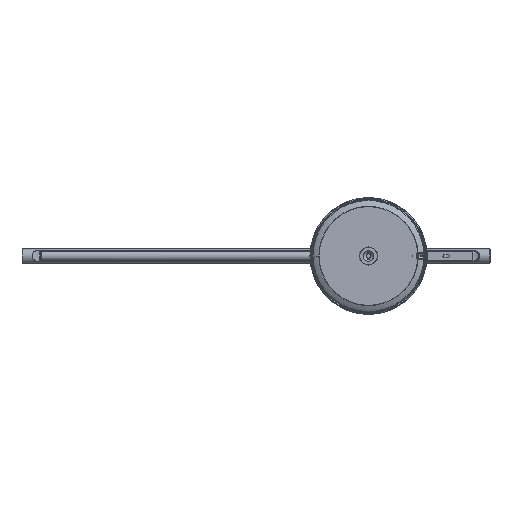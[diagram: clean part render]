
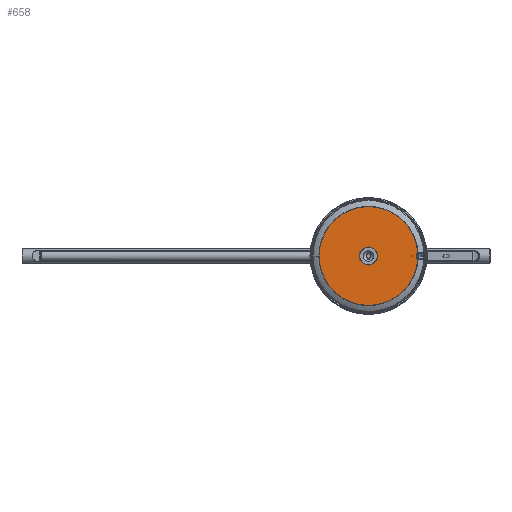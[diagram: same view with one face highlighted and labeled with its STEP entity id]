
A CAD part, front view. The second image highlights one B-rep face of the part: STEP entity #658.
In plain terms, the highlighted planar face has unit normal (0, -1, 0).
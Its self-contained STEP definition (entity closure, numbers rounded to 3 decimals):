
#105 = DIRECTION ( 'NONE',  ( -1., 0., 0. ) ) ;
#398 = VERTEX_POINT ( 'NONE', #5561 ) ;
#568 = AXIS2_PLACEMENT_3D ( 'NONE', #1895, #6085, #6145 ) ;
#658 = ADVANCED_FACE ( 'NONE', ( #8896, #8214 ), #6558, .F. ) ;
#961 = CIRCLE ( 'NONE', #2252, 3. ) ;
#968 = DIRECTION ( 'NONE',  ( 0., 1., 0. ) ) ;
#1062 = ORIENTED_EDGE ( 'NONE', *, *, #1435, .T. ) ;
#1435 = EDGE_CURVE ( 'NONE', #398, #5321, #5297, .T. ) ;
#1554 = CARTESIAN_POINT ( 'NONE',  ( 53., 0., -0.5 ) ) ;
#1557 = DIRECTION ( 'NONE',  ( -1., 0., 0. ) ) ;
#1728 = ORIENTED_EDGE ( 'NONE', *, *, #8612, .T. ) ;
#1774 = CARTESIAN_POINT ( 'NONE',  ( 10.1, 0., 0. ) ) ;
#1895 = CARTESIAN_POINT ( 'NONE',  ( 56., 0., -0.5 ) ) ;
#2008 = ORIENTED_EDGE ( 'NONE', *, *, #9253, .T. ) ;
#2089 = CIRCLE ( 'NONE', #9098, 10.1 ) ;
#2252 = AXIS2_PLACEMENT_3D ( 'NONE', #7407, #968, #1557 ) ;
#2376 = ORIENTED_EDGE ( 'NONE', *, *, #6478, .T. ) ;
#2424 = ORIENTED_EDGE ( 'NONE', *, *, #6201, .T. ) ;
#2519 = VERTEX_POINT ( 'NONE', #8579 ) ;
#2570 = VERTEX_POINT ( 'NONE', #2923 ) ;
#2714 = LINE ( 'NONE', #4524, #8340 ) ;
#2793 = CARTESIAN_POINT ( 'NONE',  ( 54.714, 0., 3.21 ) ) ;
#2809 = CARTESIAN_POINT ( 'NONE',  ( 0., 0., 0. ) ) ;
#2883 = DIRECTION ( 'NONE',  ( 0., 1., 0. ) ) ;
#2923 = CARTESIAN_POINT ( 'NONE',  ( -54.808, 0., 0. ) ) ;
#3165 = CIRCLE ( 'NONE', #8326, 54.808 ) ;
#3657 = CARTESIAN_POINT ( 'NONE',  ( 0., 0., 0. ) ) ;
#3676 = AXIS2_PLACEMENT_3D ( 'NONE', #9148, #4861, #7634 ) ;
#3722 = DIRECTION ( 'NONE',  ( -1., 0., 0. ) ) ;
#3832 = VERTEX_POINT ( 'NONE', #8191 ) ;
#4456 = EDGE_LOOP ( 'NONE', ( #2008, #4838, #2424, #1728, #1062 ) ) ;
#4468 = EDGE_CURVE ( 'NONE', #3832, #6841, #2089, .T. ) ;
#4524 = CARTESIAN_POINT ( 'NONE',  ( 53., 0., 0.5 ) ) ;
#4838 = ORIENTED_EDGE ( 'NONE', *, *, #5585, .T. ) ;
#4861 = DIRECTION ( 'NONE',  ( 0., -1., 0. ) ) ;
#5008 = CIRCLE ( 'NONE', #3676, 54.808 ) ;
#5064 = DIRECTION ( 'NONE',  ( 0., 1., 0. ) ) ;
#5264 = DIRECTION ( 'NONE',  ( 0., 0., 1. ) ) ;
#5297 = CIRCLE ( 'NONE', #568, 3. ) ;
#5321 = VERTEX_POINT ( 'NONE', #1554 ) ;
#5352 = CIRCLE ( 'NONE', #8857, 10.1 ) ;
#5561 = CARTESIAN_POINT ( 'NONE',  ( 54.714, 0., -3.21 ) ) ;
#5585 = EDGE_CURVE ( 'NONE', #2519, #5853, #961, .T. ) ;
#5684 = AXIS2_PLACEMENT_3D ( 'NONE', #3657, #2883, #6595 ) ;
#5713 = CARTESIAN_POINT ( 'NONE',  ( 0., 0., 0. ) ) ;
#5853 = VERTEX_POINT ( 'NONE', #2793 ) ;
#6085 = DIRECTION ( 'NONE',  ( 0., 1., 0. ) ) ;
#6145 = DIRECTION ( 'NONE',  ( -1., 0., 0. ) ) ;
#6201 = EDGE_CURVE ( 'NONE', #5853, #2570, #5008, .T. ) ;
#6328 = DIRECTION ( 'NONE',  ( 0., -1., 0. ) ) ;
#6472 = DIRECTION ( 'NONE',  ( 0., 1., 0. ) ) ;
#6478 = EDGE_CURVE ( 'NONE', #6841, #3832, #5352, .T. ) ;
#6558 = PLANE ( 'NONE',  #5684 ) ;
#6595 = DIRECTION ( 'NONE',  ( -1., 0., 0. ) ) ;
#6841 = VERTEX_POINT ( 'NONE', #1774 ) ;
#7338 = CARTESIAN_POINT ( 'NONE',  ( 0., 0., 0. ) ) ;
#7407 = CARTESIAN_POINT ( 'NONE',  ( 56., 0., 0.5 ) ) ;
#7634 = DIRECTION ( 'NONE',  ( -1., 0., 0. ) ) ;
#7852 = DIRECTION ( 'NONE',  ( -1., 0., 0. ) ) ;
#8191 = CARTESIAN_POINT ( 'NONE',  ( -10.1, 0., 0. ) ) ;
#8214 = FACE_OUTER_BOUND ( 'NONE', #4456, .T. ) ;
#8326 = AXIS2_PLACEMENT_3D ( 'NONE', #2809, #6328, #7852 ) ;
#8340 = VECTOR ( 'NONE', #5264, 1000. ) ;
#8464 = ORIENTED_EDGE ( 'NONE', *, *, #4468, .T. ) ;
#8579 = CARTESIAN_POINT ( 'NONE',  ( 53., 0., 0.5 ) ) ;
#8612 = EDGE_CURVE ( 'NONE', #2570, #398, #3165, .T. ) ;
#8857 = AXIS2_PLACEMENT_3D ( 'NONE', #7338, #5064, #105 ) ;
#8896 = FACE_BOUND ( 'NONE', #8913, .T. ) ;
#8913 = EDGE_LOOP ( 'NONE', ( #8464, #2376 ) ) ;
#9098 = AXIS2_PLACEMENT_3D ( 'NONE', #5713, #6472, #3722 ) ;
#9148 = CARTESIAN_POINT ( 'NONE',  ( 0., 0., 0. ) ) ;
#9253 = EDGE_CURVE ( 'NONE', #5321, #2519, #2714, .T. ) ;
